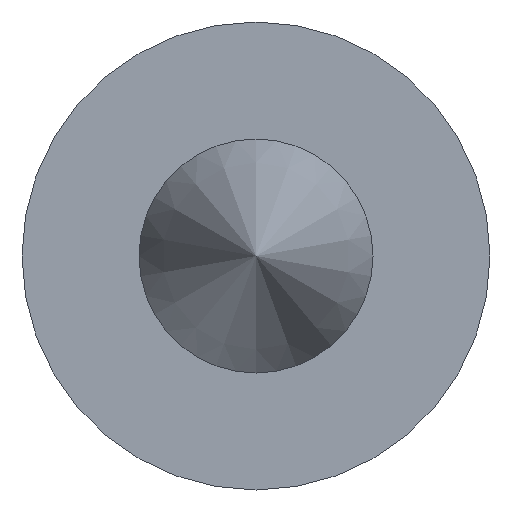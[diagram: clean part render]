
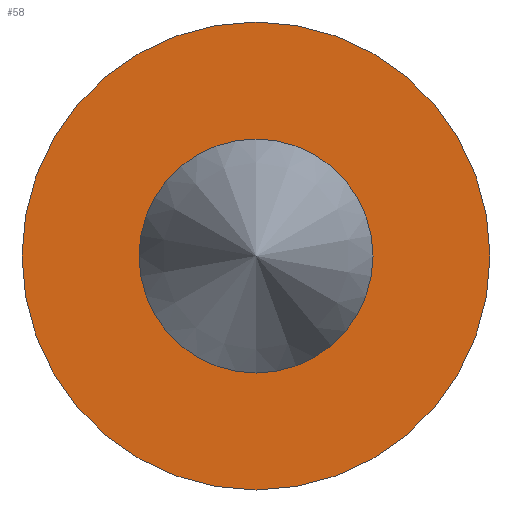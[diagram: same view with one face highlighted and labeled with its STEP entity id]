
A CAD part, front view. The second image highlights one B-rep face of the part: STEP entity #58.
In plain terms, the highlighted planar face has unit normal (0, -1, 0).
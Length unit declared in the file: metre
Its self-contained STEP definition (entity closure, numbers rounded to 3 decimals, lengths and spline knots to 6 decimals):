
#12=PLANE('',#78);
#19=ORIENTED_EDGE('',*,*,#26,.T.);
#20=ORIENTED_EDGE('',*,*,#24,.T.);
#24=EDGE_CURVE('',#28,#28,#33,.T.);
#26=EDGE_CURVE('',#31,#31,#35,.T.);
#28=VERTEX_POINT('',#106);
#31=VERTEX_POINT('',#113);
#33=CIRCLE('',#75,0.00155);
#35=CIRCLE('',#79,0.0031);
#40=EDGE_LOOP('',(#19));
#41=EDGE_LOOP('',(#20));
#49=FACE_BOUND('',#40,.T.);
#50=FACE_BOUND('',#41,.T.);
#58=ADVANCED_FACE('',(#49,#50),#12,.T.);
#75=AXIS2_PLACEMENT_3D('',#105,#87,#88);
#78=AXIS2_PLACEMENT_3D('',#111,#93,#94);
#79=AXIS2_PLACEMENT_3D('',#112,#95,#96);
#87=DIRECTION('',(0.,1.,0.));
#88=DIRECTION('',(0.,0.,-1.));
#93=DIRECTION('',(0.,-1.,0.));
#94=DIRECTION('',(0.,0.,1.));
#95=DIRECTION('',(0.,-1.,0.));
#96=DIRECTION('',(0.,0.,1.));
#105=CARTESIAN_POINT('',(-0.080677,0.028716,-0.042201));
#106=CARTESIAN_POINT('',(-0.080677,0.028716,-0.043751));
#111=CARTESIAN_POINT('',(-0.080677,0.028716,-0.042201));
#112=CARTESIAN_POINT('',(-0.080677,0.028716,-0.042201));
#113=CARTESIAN_POINT('',(-0.080677,0.028716,-0.039101));
